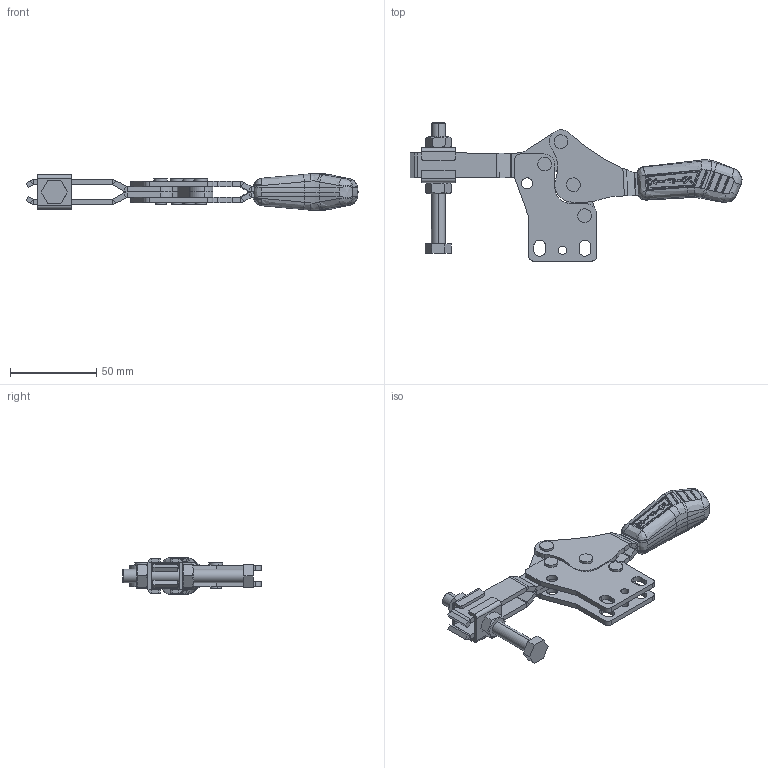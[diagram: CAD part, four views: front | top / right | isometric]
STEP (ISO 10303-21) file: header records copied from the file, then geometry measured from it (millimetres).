
FILE_DESCRIPTION (( 'STEP AP203' ), '1' );
FILE_NAME ('KF-722 R.STEP', '2018-03-06T11:10:45', ( 'Ricardo' ), ( '' ), 'SwSTEP 2.0', 'SolidWorks 2018', '' );
FILE_SCHEMA (( 'CONFIG_CONTROL_DESIGN' ));
Length unit declared in the file: millimetre
Products named in the file (14): KF-722 R; 03.13072_esquerda; 08.10118; 3670000103; 07.60005; 01.10315; 12.50020; 01.10315_esquerda; 14.10001; 02.11102; 11.50002; 02.11102_esquerda; PS-M8; 03.13072
Assembly tree (19 placements, depth 3):
  KF-722 R
    01.10315
    01.10315_esquerda
    02.11102
    02.11102_esquerda
    03.13072
    03.13072_esquerda
    08.10118  x2
    3670000103  x4
    07.60005
    PS-M8
      12.50020
      14.10001  x2
      11.50002  x2
Bounding box: 192 x 79.9 x 21.21 mm (x, y, z)
Volume: 58001.9 mm3; surface area: 41412.4 mm2
Topology: 18 solids, 18 shells, 992 faces, 2494 edges, 1557 vertices
Faces by surface type: cylinder 334, plane 313, bspline 273, sphere 50, cone 20, torus 2
Entity records: 35964 total; most frequent: CARTESIAN_POINT 14696, ORIENTED_EDGE 4642, DIRECTION 3362, EDGE_CURVE 2321, VERTEX_POINT 1451, AXIS2_PLACEMENT_3D 1237, EDGE_LOOP 982, FACE_OUTER_BOUND 914
